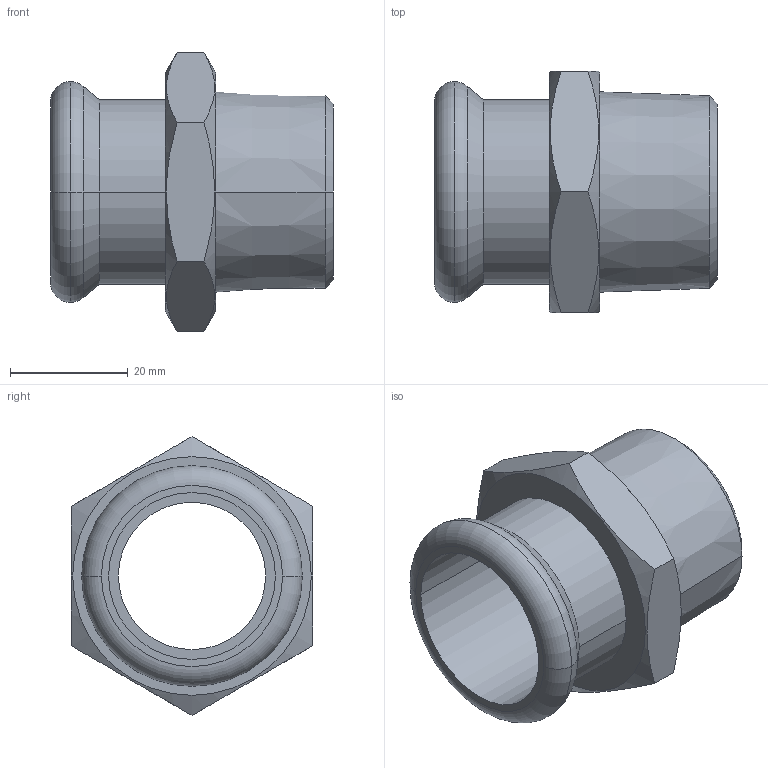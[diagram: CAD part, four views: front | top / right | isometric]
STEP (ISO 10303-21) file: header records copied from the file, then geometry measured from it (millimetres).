
FILE_DESCRIPTION(('CoCreate Modeling STEP Export'),'2;1');
FILE_NAME('C1405 28xR1.stp','2014-11-07T14:20:04',(''),(''),'CoCreate Modeling STEP processor for AP214 (Solid Model)','CoCreate Modeling 17.00A 17-Jun-2010 (C) Parametric Technology GmbH','');
FILE_SCHEMA(('AUTOMOTIVE_DESIGN { 1 0 10303 214 1 1 1 1 }'));
Length unit declared in the file: millimetre
Products named in the file (2): C1405_28xR1
Assembly tree (1 placements, depth 2):
  C1405_28xR1
    C1405_28xR1
Bounding box: 48 x 41 x 47.34 mm (x, y, z)
Volume: 18241.1 mm3; surface area: 11327.3 mm2
Topology: 1 solids, 1 shells, 34 faces, 79 edges, 51 vertices
Faces by surface type: plane 12, cone 10, cylinder 8, torus 4
Entity records: 1820 total; most frequent: CARTESIAN_POINT 1095, ORIENTED_EDGE 158, DIRECTION 112, EDGE_CURVE 79, VERTEX_POINT 51, AXIS2_PLACEMENT_3D 44, EDGE_LOOP 40, FACE_OUTER_BOUND 34
